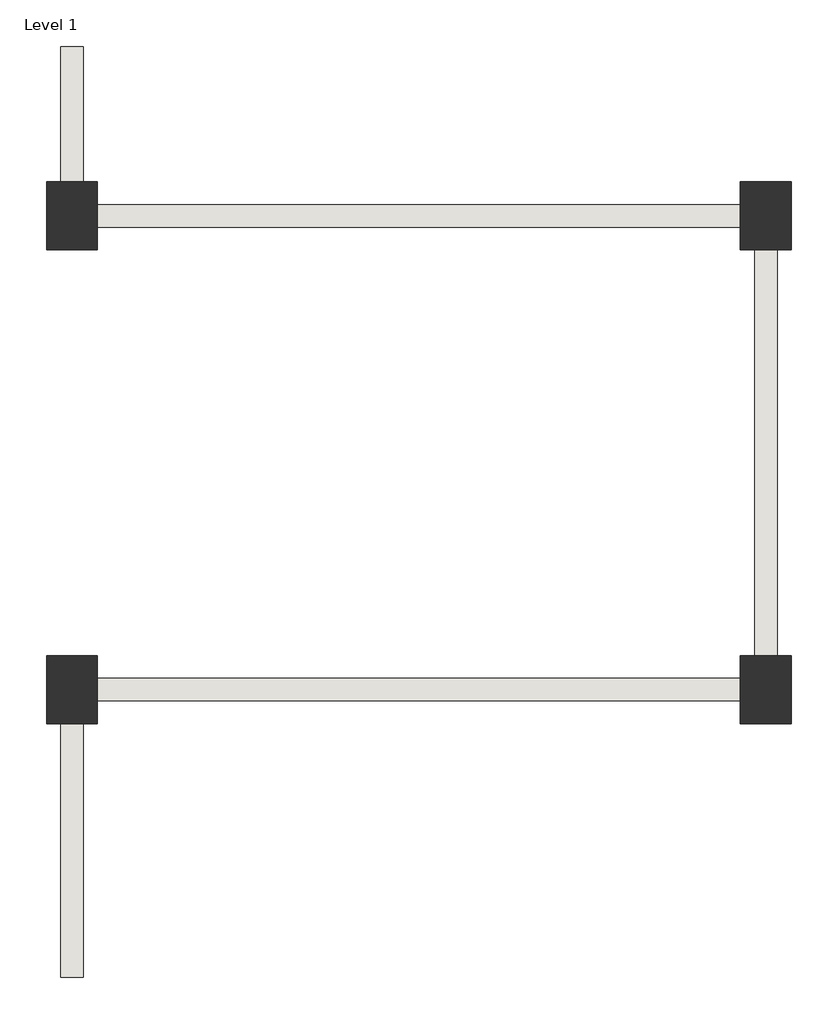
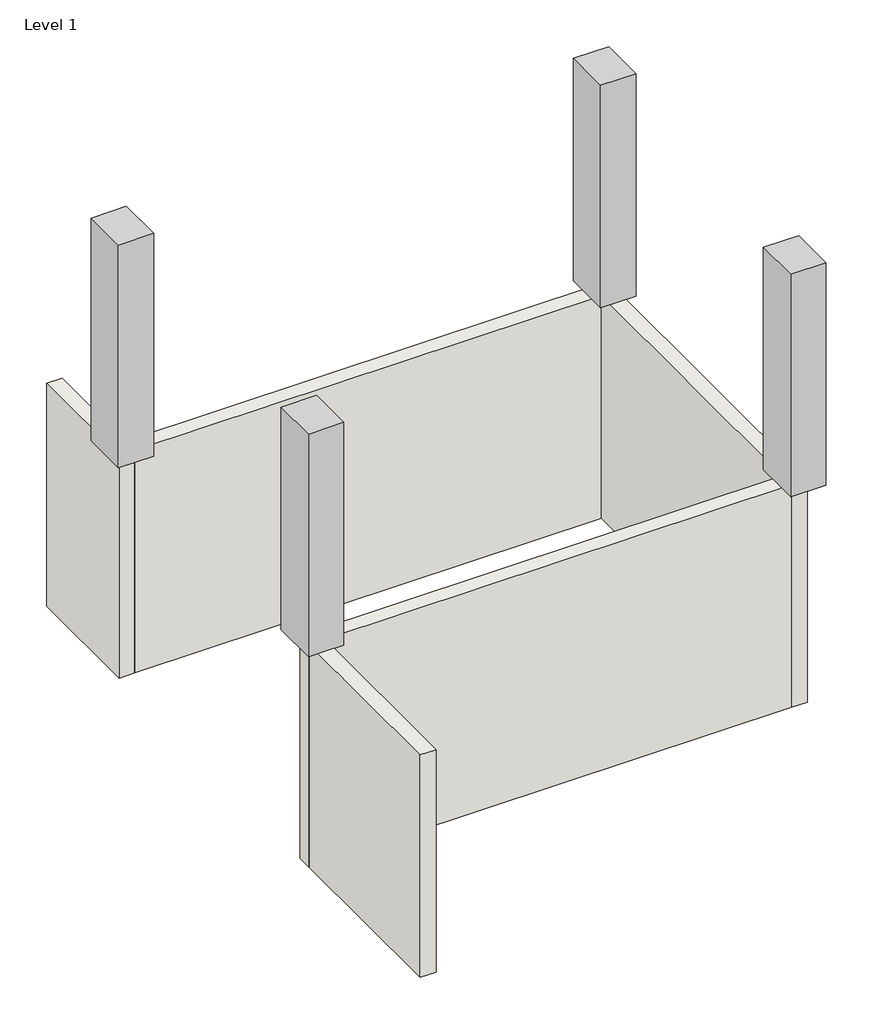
# One storey: 5 walls, 4 columns.
"""IFC4 building model written with IfcOpenShell, lengths in millimetres."""

from ifc_helpers import new_model, si_unit, frame, origin, origin_with_axes, place, context, project, spatial, polyline, outline, extrude, faceted_brep, element, save

model = new_model("IFC4")

# Units and contexts
model_context = context("Model", 3, world=origin())
ifc_project = project(units=[si_unit("LENGTHUNIT", "METRE", prefix="MILLI")], contexts=[model_context])

# Site, building, storey
site = spatial("IfcSite", under=ifc_project)
building = spatial("IfcBuilding", under=site)
storey = spatial("IfcBuildingStorey", under=building, Name="Level 1", Elevation=0.0)

# Columns
placement = place(None, origin())
element("IfcColumn", 1, ObjectType="Concrete-Rectangular-Column : 18 x 24", at=placement, inside=storey, context=model_context, shape_type="SweptSolid", body=[
    extrude(outline(polyline([(-20051.7463995, 18288.2057454), (-20051.7463995, 17678.6057454), (-20508.9463995, 17678.6057454), (-20508.9463995, 18288.2057454), (-20051.7463995, 18288.2057454)])), origin_with_axes(), (0.0, 0.0, 1.0), 3048.0),
])
element("IfcColumn", 2, ObjectType="Concrete-Rectangular-Column : 18 x 24", at=placement, inside=storey, context=model_context, shape_type="SweptSolid", body=[
    extrude(outline(polyline([(-13803.3463995, 18288.2057454), (-13803.3463995, 17678.6057454), (-14260.5463995, 17678.6057454), (-14260.5463995, 18288.2057454), (-13803.3463995, 18288.2057454)])), origin_with_axes(), (0.0, 0.0, 1.0), 3048.0),
])
element("IfcColumn", 3, ObjectType="Concrete-Rectangular-Column : 18 x 24", at=placement, inside=storey, context=model_context, shape_type="SweptSolid", body=[
    extrude(outline(polyline([(-20051.7463995, 14021.0057454), (-20051.7463995, 13411.4057454), (-20508.9463995, 13411.4057454), (-20508.9463995, 14021.0057454), (-20051.7463995, 14021.0057454)])), origin_with_axes(), (0.0, 0.0, 1.0), 3048.0),
])
element("IfcColumn", 4, ObjectType="Concrete-Rectangular-Column : 18 x 24", at=placement, inside=storey, context=model_context, shape_type="SweptSolid", body=[
    extrude(outline(polyline([(-13803.3463995, 14021.0057454), (-13803.3463995, 13411.4057454), (-14260.5463995, 13411.4057454), (-14260.5463995, 14021.0057454), (-13803.3463995, 14021.0057454)])), origin_with_axes(), (0.0, 0.0, 1.0), 3048.0),
])

# Walls
element("IfcWall", 5, ObjectType="Generic - 8\"", at=placement, inside=storey, context=model_context, shape_type="Brep", body=[
    faceted_brep([(-20381.9463995, 19507.4057454, -3048.0), (-20381.9463995, 17881.8057454, -3048.0), (-20381.9463995, 17881.8057454, 0.0), (-20381.9463995, 19507.4057454, 0.0), (-20178.7463995, 19507.4057454, -3048.0), (-20178.7463995, 19507.4057454, 0.0), (-20178.7463995, 18085.0057454, 0.0), (-20178.7463995, 17881.8057454, 0.0), (-20178.7463995, 17881.8057454, -3048.0), (-20178.7463995, 18085.0057454, -3048.0)], [[[0, 1, 2, 3]], [[4, 5, 6, 7, 8, 9]], [[1, 0, 4, 9, 8]], [[3, 2, 7, 6, 5]], [[0, 3, 5, 4]], [[2, 1, 8, 7]]]),
])
element("IfcWall", 6, ObjectType="Generic - 8\"", at=placement, inside=storey, context=model_context, shape_type="Brep", body=[
    faceted_brep([(-20178.7463995, 17881.8057454, -3048.0), (-14133.5463995, 17881.8057454, -3048.0), (-13930.3463995, 17881.8057454, -3048.0), (-13930.3463995, 17881.8057454, 0.0), (-14133.5463995, 17881.8057454, 0.0), (-20178.7463995, 17881.8057454, 0.0), (-20178.7463995, 18085.0057454, -3048.0), (-20178.7463995, 18085.0057454, 0.0), (-13930.3463995, 18085.0057454, 0.0), (-13930.3463995, 18085.0057454, -3048.0)], [[[0, 1, 2, 3, 4, 5]], [[6, 7, 8, 9]], [[2, 1, 0, 6, 9]], [[5, 4, 3, 8, 7]], [[0, 5, 7, 6]], [[3, 2, 9, 8]]]),
])
element("IfcWall", 7, ObjectType="Generic - 8\"", at=placement, inside=storey, context=model_context, shape_type="Brep", body=[
    faceted_brep([(-14133.5463995, 17881.8057454, -3048.0), (-14133.5463995, 13817.8057454, -3048.0), (-14133.5463995, 13614.6057454, -3048.0), (-14133.5463995, 13614.6057454, 0.0), (-14133.5463995, 13817.8057454, 0.0), (-14133.5463995, 17881.8057454, 0.0), (-13930.3463995, 17881.8057454, -3048.0), (-13930.3463995, 17881.8057454, 0.0), (-13930.3463995, 13614.6057454, 0.0), (-13930.3463995, 13614.6057454, -3048.0)], [[[0, 1, 2, 3, 4, 5]], [[6, 7, 8, 9]], [[2, 1, 0, 6, 9]], [[5, 4, 3, 8, 7]], [[0, 5, 7, 6]], [[3, 2, 9, 8]]]),
])
element("IfcWall", 8, ObjectType="Generic - 8\"", at=placement, inside=storey, context=model_context, shape_type="Brep", body=[
    faceted_brep([(-14133.5463995, 13817.8057454, -3048.0), (-20381.9463995, 13817.8057454, -3048.0), (-20381.9463995, 13817.8057454, 0.0), (-14133.5463995, 13817.8057454, 0.0), (-14133.5463995, 13614.6057454, -3048.0), (-14133.5463995, 13614.6057454, 0.0), (-20178.7463995, 13614.6057454, 0.0), (-20381.9463995, 13614.6057454, 0.0), (-20381.9463995, 13614.6057454, -3048.0), (-20178.7463995, 13614.6057454, -3048.0)], [[[0, 1, 2, 3]], [[4, 5, 6, 7, 8, 9]], [[1, 0, 4, 9, 8]], [[3, 2, 7, 6, 5]], [[0, 3, 5, 4]], [[2, 1, 8, 7]]]),
])
element("IfcWall", 9, ObjectType="Generic - 8\"", at=placement, inside=storey, context=model_context, shape_type="SweptSolid", body=[
    extrude(outline(polyline([(-20381.9463995, 11125.4057454), (-20381.9463995, 13614.6057454), (-20178.7463995, 13614.6057454), (-20178.7463995, 11125.4057454), (-20381.9463995, 11125.4057454)])), frame((0.0, 0.0, -3048.0), z_axis=(0.0, 0.0, 1.0), x_axis=(1.0, 0.0, 0.0)), (0.0, 0.0, 1.0), 3048.0),
])

save(model, "model.ifc")
